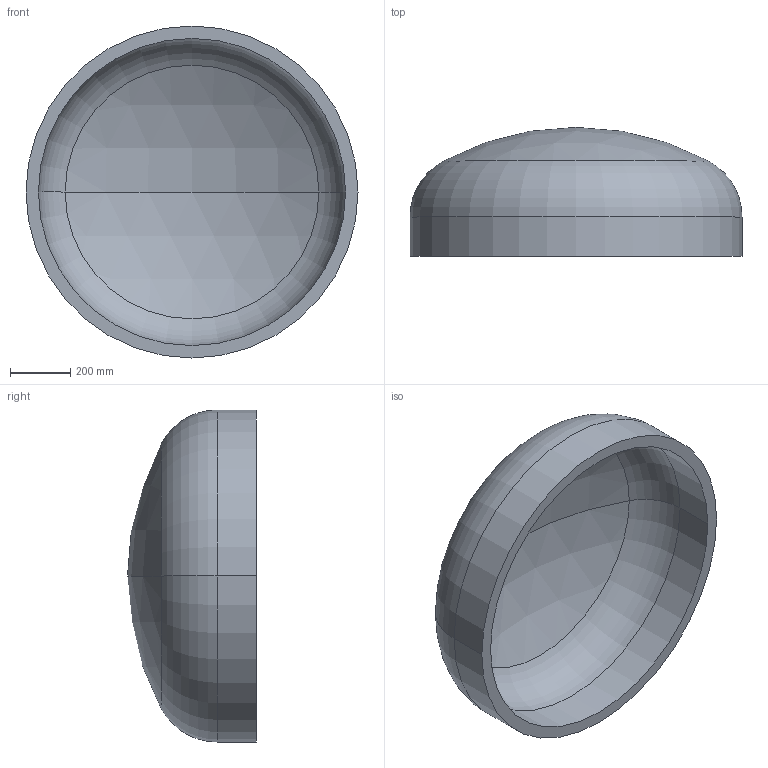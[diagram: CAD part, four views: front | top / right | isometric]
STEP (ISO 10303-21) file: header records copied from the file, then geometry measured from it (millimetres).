
FILE_DESCRIPTION (( 'STEP AP203' ), '1' );
FILE_NAME ('DIN 28013 Korbbogenform_-_Boden DIN 28013 - 1100 x 130 - I - s=41.step', '2016-07-01T09:07:48', ( '' ), ( '' ), 'SwSTEP 2.0', 'SolidWorks 2013', '' );
FILE_SCHEMA (( 'CONFIG_CONTROL_DESIGN' ));
Length unit declared in the file: millimetre
Products named in the file (1): DIN 28013 Korbbogenform_-_Boden DIN 28013 - 1100 x 130 - I - s=41
Bounding box: 1100 x 427.16 x 1100 mm (x, y, z)
Volume: 69183690.7 mm3; surface area: 3514738.8 mm2
Topology: 1 solids, 1 shells, 13 faces, 24 edges, 14 vertices
Faces by surface type: torus 4, cylinder 4, sphere 4, plane 1
Entity records: 407 total; most frequent: DIRECTION 72, CARTESIAN_POINT 52, ORIENTED_EDGE 48, AXIS2_PLACEMENT_3D 34, EDGE_CURVE 24, CIRCLE 20, EDGE_LOOP 14, VERTEX_POINT 14
